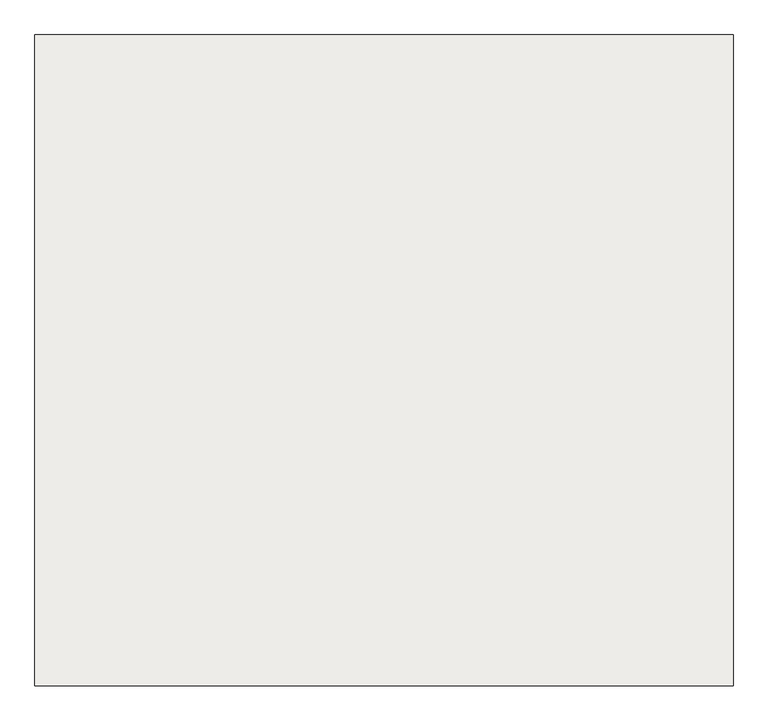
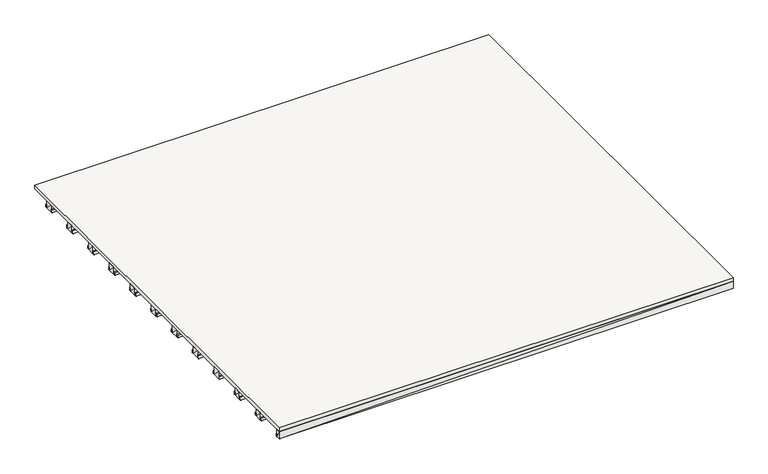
"""IFC4 building model written with IfcOpenShell, lengths in millimetres: slab geometry."""

from ifc_helpers import new_model, si_unit, frame, origin, place, context, project, spatial, polyline, outline, extrude, faceted_brep, source, transform, mapped, element, save


def slab_3418962d(model_context):
    return source(origin(), model_context, "Body", "SolidModel", [
        faceted_brep([(-2377.8, -356.295, -120.0), (2377.795, -356.295, -120.0), (2377.795, -371.295, -120.0), (-2377.8, -371.295, -120.0), (-2377.8, -371.295, -90.0), (2377.795, -371.295, -90.0), (2377.795, -356.295, -90.0), (-2377.8, -356.295, -90.0)], [[[0, 1, 2, 3]], [[4, 5, 6, 7]], [[4, 3, 5]], [[3, 2, 5]], [[5, 2, 6]], [[2, 1, 6]], [[6, 1, 7]], [[1, 0, 7]], [[7, 0, 4]], [[0, 3, 4]]]),
        faceted_brep([(-2377.8, 1163.705, -120.0), (2377.795, 1163.705, -120.0), (2377.795, 1148.705, -120.0), (-2377.8, 1148.705, -120.0), (-2377.8, 1148.705, -90.0), (2377.795, 1148.705, -90.0), (2377.795, 1163.705, -90.0), (-2377.8, 1163.705, -90.0)], [[[0, 1, 2, 3]], [[4, 5, 6, 7]], [[4, 3, 5]], [[3, 2, 5]], [[5, 2, 6]], [[2, 1, 6]], [[6, 1, 7]], [[1, 0, 7]], [[7, 0, 4]], [[0, 3, 4]]]),
        faceted_brep([(-2377.8, -1496.295, -120.0), (2377.795, -1496.295, -120.0), (2377.795, -1511.295, -120.0), (-2377.8, -1511.295, -120.0), (-2377.8, -1511.295, -90.0), (2377.795, -1511.295, -90.0), (2377.795, -1496.295, -90.0), (-2377.8, -1496.295, -90.0)], [[[0, 1, 2, 3]], [[4, 5, 6, 7]], [[4, 3, 5]], [[3, 2, 5]], [[5, 2, 6]], [[2, 1, 6]], [[6, 1, 7]], [[1, 0, 7]], [[7, 0, 4]], [[0, 3, 4]]]),
        faceted_brep([(-2377.8, -736.295, -120.0), (2377.795, -736.295, -120.0), (2377.795, -751.295, -120.0), (-2377.8, -751.295, -120.0), (-2377.8, -751.295, -90.0), (2377.795, -751.295, -90.0), (2377.795, -736.295, -90.0), (-2377.8, -736.295, -90.0)], [[[0, 1, 2, 3]], [[4, 5, 6, 7]], [[4, 3, 5]], [[3, 2, 5]], [[5, 2, 6]], [[2, 1, 6]], [[6, 1, 7]], [[1, 0, 7]], [[7, 0, 4]], [[0, 3, 4]]]),
        faceted_brep([(-2377.8, 498.705, -120.0), (2377.795, 498.705, -120.0), (2377.795, 483.705, -120.0), (-2377.8, 483.705, -120.0), (-2377.8, 483.705, -90.0), (2377.795, 483.705, -90.0), (2377.795, 498.705, -90.0), (-2377.8, 498.705, -90.0)], [[[0, 1, 2, 3]], [[4, 5, 6, 7]], [[4, 3, 5]], [[3, 2, 5]], [[5, 2, 6]], [[2, 1, 6]], [[6, 1, 7]], [[1, 0, 7]], [[7, 0, 4]], [[0, 3, 4]]]),
        faceted_brep([(-2377.8, -1036.295, -120.0), (2377.795, -1036.295, -120.0), (2377.795, -1116.295, -120.0), (-2377.8, -1116.295, -120.0), (-2377.8, -1116.295, -40.0), (2377.795, -1116.295, -40.0), (2377.795, -1036.295, -40.0), (-2377.8, -1036.295, -40.0)], [[[0, 1, 2, 3]], [[4, 5, 6, 7]], [[4, 3, 5]], [[3, 2, 5]], [[5, 2, 6]], [[2, 1, 6]], [[6, 1, 7]], [[1, 0, 7]], [[7, 0, 4]], [[0, 3, 4]]]),
        faceted_brep([(-2377.8, -1401.295, -120.0), (2377.795, -1401.295, -120.0), (2377.795, -1416.295, -120.0), (-2377.8, -1416.295, -120.0), (-2377.8, -1416.295, -90.0), (2377.795, -1416.295, -90.0), (2377.795, -1401.295, -90.0), (-2377.8, -1401.295, -90.0)], [[[0, 1, 2, 3]], [[4, 5, 6, 7]], [[4, 3, 5]], [[3, 2, 5]], [[5, 2, 6]], [[2, 1, 6]], [[6, 1, 7]], [[1, 0, 7]], [[7, 0, 4]], [[0, 3, 4]]]),
        faceted_brep([(-2377.8, 878.705, -120.0), (2377.795, 878.705, -120.0), (2377.795, 863.705, -120.0), (-2377.8, 863.705, -120.0), (-2377.8, 863.705, -90.0), (2377.795, 863.705, -90.0), (2377.795, 878.705, -90.0), (-2377.8, 878.705, -90.0)], [[[0, 1, 2, 3]], [[4, 5, 6, 7]], [[4, 3, 5]], [[3, 2, 5]], [[5, 2, 6]], [[2, 1, 6]], [[6, 1, 7]], [[1, 0, 7]], [[7, 0, 4]], [[0, 3, 4]]]),
        faceted_brep([(-2377.8, -1416.295, -120.0), (2377.795, -1416.295, -120.0), (2377.795, -1496.295, -120.0), (-2377.8, -1496.295, -120.0), (-2377.8, -1496.295, -40.0), (2377.795, -1496.295, -40.0), (2377.795, -1416.295, -40.0), (-2377.8, -1416.295, -40.0)], [[[0, 1, 2, 3]], [[4, 5, 6, 7]], [[4, 3, 5]], [[3, 2, 5]], [[5, 2, 6]], [[2, 1, 6]], [[6, 1, 7]], [[1, 0, 7]], [[7, 0, 4]], [[0, 3, 4]]]),
        faceted_brep([(-2377.8, 1543.705, -120.0), (2377.795, 1543.705, -120.0), (2377.795, 1528.705, -120.0), (-2377.8, 1528.705, -120.0), (-2377.8, 1528.705, -90.0), (2377.795, 1528.705, -90.0), (2377.795, 1543.705, -90.0), (-2377.8, 1543.705, -90.0)], [[[0, 1, 2, 3]], [[4, 5, 6, 7]], [[4, 3, 5]], [[3, 2, 5]], [[5, 2, 6]], [[2, 1, 6]], [[6, 1, 7]], [[1, 0, 7]], [[7, 0, 4]], [[0, 3, 4]]]),
        faceted_brep([(-2377.8, 783.705, -120.0), (2377.795, 783.705, -120.0), (2377.795, 768.705, -120.0), (-2377.8, 768.705, -120.0), (-2377.8, 768.705, -90.0), (2377.795, 768.705, -90.0), (2377.795, 783.705, -90.0), (-2377.8, 783.705, -90.0)], [[[0, 1, 2, 3]], [[4, 5, 6, 7]], [[4, 3, 5]], [[3, 2, 5]], [[5, 2, 6]], [[2, 1, 6]], [[6, 1, 7]], [[1, 0, 7]], [[7, 0, 4]], [[0, 3, 4]]]),
        faceted_brep([(-2377.8, -1781.295, -120.0), (2377.795, -1781.295, -120.0), (2377.795, -1796.295, -120.0), (-2377.8, -1796.295, -120.0), (-2377.8, -1796.295, -90.0), (2377.795, -1796.295, -90.0), (2377.795, -1781.295, -90.0), (-2377.8, -1781.295, -90.0)], [[[0, 1, 2, 3]], [[4, 5, 6, 7]], [[4, 3, 5]], [[3, 2, 5]], [[5, 2, 6]], [[2, 1, 6]], [[6, 1, 7]], [[1, 0, 7]], [[7, 0, 4]], [[0, 3, 4]]]),
        faceted_brep([(-2377.8, 403.705, -120.0), (2377.795, 403.705, -120.0), (2377.795, 388.705, -120.0), (-2377.8, 388.705, -120.0), (-2377.8, 388.705, -90.0), (2377.795, 388.705, -90.0), (2377.795, 403.705, -90.0), (-2377.8, 403.705, -90.0)], [[[0, 1, 2, 3]], [[4, 5, 6, 7]], [[4, 3, 5]], [[3, 2, 5]], [[5, 2, 6]], [[2, 1, 6]], [[6, 1, 7]], [[1, 0, 7]], [[7, 0, 4]], [[0, 3, 4]]]),
        faceted_brep([(-2377.8, 1923.705, -120.0), (2377.795, 1923.705, -120.0), (2377.795, 1908.705, -120.0), (-2377.8, 1908.705, -120.0), (-2377.8, 1908.705, -90.0), (2377.795, 1908.705, -90.0), (2377.795, 1923.705, -90.0), (-2377.8, 1923.705, -90.0)], [[[0, 1, 2, 3]], [[4, 5, 6, 7]], [[4, 3, 5]], [[3, 2, 5]], [[5, 2, 6]], [[2, 1, 6]], [[6, 1, 7]], [[1, 0, 7]], [[7, 0, 4]], [[0, 3, 4]]]),
        faceted_brep([(-2377.8, -2161.295, -120.0), (2377.795, -2161.295, -120.0), (2377.795, -2176.295, -120.0), (-2377.8, -2176.295, -120.0), (-2377.8, -2176.295, -90.0), (2377.795, -2176.295, -90.0), (2377.795, -2161.295, -90.0), (-2377.8, -2161.295, -90.0)], [[[0, 1, 2, 3]], [[4, 5, 6, 7]], [[4, 3, 5]], [[3, 2, 5]], [[5, 2, 6]], [[2, 1, 6]], [[6, 1, 7]], [[1, 0, 7]], [[7, 0, 4]], [[0, 3, 4]]]),
        extrude(outline(polyline([(2377.79, 2216.295), (2377.8, -2216.295), (-2377.8, -2216.295), (-2377.8, 2216.295), (2377.79, 2216.295)])), frame((0.0, 0.0, -40.0), z_axis=(0.0, 0.0, 1.0), x_axis=(1.0, 0.0, 0.0)), (0.0, 0.0, 1.0), 40.0),
        faceted_brep([(-2377.8, -1116.295, -120.0), (2377.795, -1116.295, -120.0), (2377.795, -1131.295, -120.0), (-2377.8, -1131.295, -120.0), (-2377.8, -1131.295, -90.0), (2377.795, -1131.295, -90.0), (2377.795, -1116.295, -90.0), (-2377.8, -1116.295, -90.0)], [[[0, 1, 2, 3]], [[4, 5, 6, 7]], [[4, 3, 5]], [[3, 2, 5]], [[5, 2, 6]], [[2, 1, 6]], [[6, 1, 7]], [[1, 0, 7]], [[7, 0, 4]], [[0, 3, 4]]]),
        faceted_brep([(-2377.8, -2176.295, -120.0), (2377.795, -2176.295, -120.0), (2377.8, -2216.295, -120.0), (-2377.8, -2216.295, -120.0), (-2377.8, -2216.295, -40.0), (2377.8, -2216.295, -40.0), (2377.795, -2176.295, -40.0), (-2377.8, -2176.295, -40.0)], [[[0, 1, 2, 3]], [[4, 5, 6, 7]], [[4, 3, 5]], [[3, 2, 5]], [[5, 2, 6]], [[2, 1, 6]], [[6, 1, 7]], [[1, 0, 7]], [[7, 0, 4]], [[0, 3, 4]]]),
        faceted_brep([(-2377.8, 118.705, -120.0), (2377.795, 118.705, -120.0), (2377.795, 103.705, -120.0), (-2377.8, 103.705, -120.0), (-2377.8, 103.705, -90.0), (2377.795, 103.705, -90.0), (2377.795, 118.705, -90.0), (-2377.8, 118.705, -90.0)], [[[0, 1, 2, 3]], [[4, 5, 6, 7]], [[4, 3, 5]], [[3, 2, 5]], [[5, 2, 6]], [[2, 1, 6]], [[6, 1, 7]], [[1, 0, 7]], [[7, 0, 4]], [[0, 3, 4]]]),
        faceted_brep([(-2377.8, 483.705, -120.0), (2377.795, 483.705, -120.0), (2377.795, 403.705, -120.0), (-2377.8, 403.705, -120.0), (-2377.8, 403.705, -40.0), (2377.795, 403.705, -40.0), (2377.795, 483.705, -40.0), (-2377.8, 483.705, -40.0)], [[[0, 1, 2, 3]], [[4, 5, 6, 7]], [[4, 3, 5]], [[3, 2, 5]], [[5, 2, 6]], [[2, 1, 6]], [[6, 1, 7]], [[1, 0, 7]], [[7, 0, 4]], [[0, 3, 4]]]),
        faceted_brep([(-2377.8, 103.705, -120.0), (2377.795, 103.705, -120.0), (2377.795, 23.705, -120.0), (-2377.8, 23.705, -120.0), (-2377.8, 23.705, -40.0), (2377.795, 23.705, -40.0), (2377.795, 103.705, -40.0), (-2377.8, 103.705, -40.0)], [[[0, 1, 2, 3]], [[4, 5, 6, 7]], [[4, 3, 5]], [[3, 2, 5]], [[5, 2, 6]], [[2, 1, 6]], [[6, 1, 7]], [[1, 0, 7]], [[7, 0, 4]], [[0, 3, 4]]]),
        faceted_brep([(-2377.8, 2018.705, -120.0), (2377.795, 2018.705, -120.0), (2377.795, 2003.705, -120.0), (-2377.8, 2003.705, -120.0), (-2377.8, 2003.705, -90.0), (2377.795, 2003.705, -90.0), (2377.795, 2018.705, -90.0), (-2377.8, 2018.705, -90.0)], [[[0, 1, 2, 3]], [[4, 5, 6, 7]], [[4, 3, 5]], [[3, 2, 5]], [[5, 2, 6]], [[2, 1, 6]], [[6, 1, 7]], [[1, 0, 7]], [[7, 0, 4]], [[0, 3, 4]]]),
        faceted_brep([(-2377.8, 23.705, -120.0), (2377.795, 23.705, -120.0), (2377.795, 8.705, -120.0), (-2377.8, 8.705, -120.0), (-2377.8, 8.705, -90.0), (2377.795, 8.705, -90.0), (2377.795, 23.705, -90.0), (-2377.8, 23.705, -90.0)], [[[0, 1, 2, 3]], [[4, 5, 6, 7]], [[4, 3, 5]], [[3, 2, 5]], [[5, 2, 6]], [[2, 1, 6]], [[6, 1, 7]], [[1, 0, 7]], [[7, 0, 4]], [[0, 3, 4]]]),
        faceted_brep([(-2377.8, 863.705, -120.0), (2377.795, 863.705, -120.0), (2377.795, 783.705, -120.0), (-2377.8, 783.705, -120.0), (-2377.8, 783.705, -40.0), (2377.795, 783.705, -40.0), (2377.795, 863.705, -40.0), (-2377.8, 863.705, -40.0)], [[[0, 1, 2, 3]], [[4, 5, 6, 7]], [[4, 3, 5]], [[3, 2, 5]], [[5, 2, 6]], [[2, 1, 6]], [[6, 1, 7]], [[1, 0, 7]], [[7, 0, 4]], [[0, 3, 4]]]),
        faceted_brep([(-2377.8, -656.295, -120.0), (2377.795, -656.295, -120.0), (2377.795, -736.295, -120.0), (-2377.8, -736.295, -120.0), (-2377.8, -736.295, -40.0), (2377.795, -736.295, -40.0), (2377.795, -656.295, -40.0), (-2377.8, -656.295, -40.0)], [[[0, 1, 2, 3]], [[4, 5, 6, 7]], [[4, 3, 5]], [[3, 2, 5]], [[5, 2, 6]], [[2, 1, 6]], [[6, 1, 7]], [[1, 0, 7]], [[7, 0, 4]], [[0, 3, 4]]]),
        faceted_brep([(-2377.8, 1623.705, -120.0), (2377.795, 1623.705, -120.0), (2377.795, 1543.705, -120.0), (-2377.8, 1543.705, -120.0), (-2377.8, 1543.705, -40.0), (2377.795, 1543.705, -40.0), (2377.795, 1623.705, -40.0), (-2377.8, 1623.705, -40.0)], [[[0, 1, 2, 3]], [[4, 5, 6, 7]], [[4, 3, 5]], [[3, 2, 5]], [[5, 2, 6]], [[2, 1, 6]], [[6, 1, 7]], [[1, 0, 7]], [[7, 0, 4]], [[0, 3, 4]]]),
        faceted_brep([(-2377.8, -641.295, -120.0), (2377.795, -641.295, -120.0), (2377.795, -656.295, -120.0), (-2377.8, -656.295, -120.0), (-2377.8, -656.295, -90.0), (2377.795, -656.295, -90.0), (2377.795, -641.295, -90.0), (-2377.8, -641.295, -90.0)], [[[0, 1, 2, 3]], [[4, 5, 6, 7]], [[4, 3, 5]], [[3, 2, 5]], [[5, 2, 6]], [[2, 1, 6]], [[6, 1, 7]], [[1, 0, 7]], [[7, 0, 4]], [[0, 3, 4]]]),
        faceted_brep([(-2377.8, 1638.705, -120.0), (2377.795, 1638.705, -120.0), (2377.795, 1623.705, -120.0), (-2377.8, 1623.705, -120.0), (-2377.8, 1623.705, -90.0), (2377.795, 1623.705, -90.0), (2377.795, 1638.705, -90.0), (-2377.8, 1638.705, -90.0)], [[[0, 1, 2, 3]], [[4, 5, 6, 7]], [[4, 3, 5]], [[3, 2, 5]], [[5, 2, 6]], [[2, 1, 6]], [[6, 1, 7]], [[1, 0, 7]], [[7, 0, 4]], [[0, 3, 4]]]),
        faceted_brep([(-2377.8, -261.295, -120.0), (2377.795, -261.295, -120.0), (2377.795, -276.295, -120.0), (-2377.8, -276.295, -120.0), (-2377.8, -276.295, -90.0), (2377.795, -276.295, -90.0), (2377.795, -261.295, -90.0), (-2377.8, -261.295, -90.0)], [[[0, 1, 2, 3]], [[4, 5, 6, 7]], [[4, 3, 5]], [[3, 2, 5]], [[5, 2, 6]], [[2, 1, 6]], [[6, 1, 7]], [[1, 0, 7]], [[7, 0, 4]], [[0, 3, 4]]]),
        faceted_brep([(-2377.8, 2003.705, -120.0), (2377.795, 2003.705, -120.0), (2377.795, 1923.705, -120.0), (-2377.8, 1923.705, -120.0), (-2377.8, 1923.705, -40.0), (2377.795, 1923.705, -40.0), (2377.795, 2003.705, -40.0), (-2377.8, 2003.705, -40.0)], [[[0, 1, 2, 3]], [[4, 5, 6, 7]], [[4, 3, 5]], [[3, 2, 5]], [[5, 2, 6]], [[2, 1, 6]], [[6, 1, 7]], [[1, 0, 7]], [[7, 0, 4]], [[0, 3, 4]]]),
        faceted_brep([(-2377.8, -276.295, -120.0), (2377.795, -276.295, -120.0), (2377.795, -356.295, -120.0), (-2377.8, -356.295, -120.0), (-2377.8, -356.295, -40.0), (2377.795, -356.295, -40.0), (2377.795, -276.295, -40.0), (-2377.8, -276.295, -40.0)], [[[0, 1, 2, 3]], [[4, 5, 6, 7]], [[4, 3, 5]], [[3, 2, 5]], [[5, 2, 6]], [[2, 1, 6]], [[6, 1, 7]], [[1, 0, 7]], [[7, 0, 4]], [[0, 3, 4]]]),
        faceted_brep([(-2377.8, 1243.705, -120.0), (2377.795, 1243.705, -120.0), (2377.795, 1163.705, -120.0), (-2377.8, 1163.705, -120.0), (-2377.8, 1163.705, -40.0), (2377.795, 1163.705, -40.0), (2377.795, 1243.705, -40.0), (-2377.8, 1243.705, -40.0)], [[[0, 1, 2, 3]], [[4, 5, 6, 7]], [[4, 3, 5]], [[3, 2, 5]], [[5, 2, 6]], [[2, 1, 6]], [[6, 1, 7]], [[1, 0, 7]], [[7, 0, 4]], [[0, 3, 4]]]),
        faceted_brep([(-2377.8, 1258.705, -120.0), (2377.795, 1258.705, -120.0), (2377.795, 1243.705, -120.0), (-2377.8, 1243.705, -120.0), (-2377.8, 1243.705, -90.0), (2377.795, 1243.705, -90.0), (2377.795, 1258.705, -90.0), (-2377.8, 1258.705, -90.0)], [[[0, 1, 2, 3]], [[4, 5, 6, 7]], [[4, 3, 5]], [[3, 2, 5]], [[5, 2, 6]], [[2, 1, 6]], [[6, 1, 7]], [[1, 0, 7]], [[7, 0, 4]], [[0, 3, 4]]]),
        faceted_brep([(-2377.8, -1021.295, -120.0), (2377.795, -1021.295, -120.0), (2377.795, -1036.295, -120.0), (-2377.8, -1036.295, -120.0), (-2377.8, -1036.295, -90.0), (2377.795, -1036.295, -90.0), (2377.795, -1021.295, -90.0), (-2377.8, -1021.295, -90.0)], [[[0, 1, 2, 3]], [[4, 5, 6, 7]], [[4, 3, 5]], [[3, 2, 5]], [[5, 2, 6]], [[2, 1, 6]], [[6, 1, 7]], [[1, 0, 7]], [[7, 0, 4]], [[0, 3, 4]]]),
        faceted_brep([(-2377.8, -1796.295, -120.0), (2377.795, -1796.295, -120.0), (2377.795, -1876.295, -120.0), (-2377.8, -1876.295, -120.0), (-2377.8, -1876.295, -40.0), (2377.795, -1876.295, -40.0), (2377.795, -1796.295, -40.0), (-2377.8, -1796.295, -40.0)], [[[0, 1, 2, 3]], [[4, 5, 6, 7]], [[4, 3, 5]], [[3, 2, 5]], [[5, 2, 6]], [[2, 1, 6]], [[6, 1, 7]], [[1, 0, 7]], [[7, 0, 4]], [[0, 3, 4]]]),
        faceted_brep([(-2377.8, -1876.295, -120.0), (2377.795, -1876.295, -120.0), (2377.795, -1891.295, -120.0), (-2377.8, -1891.295, -120.0), (-2377.8, -1891.295, -90.0), (2377.795, -1891.295, -90.0), (2377.795, -1876.295, -90.0), (-2377.8, -1876.295, -90.0)], [[[0, 1, 2, 3]], [[4, 5, 6, 7]], [[4, 3, 5]], [[3, 2, 5]], [[5, 2, 6]], [[2, 1, 6]], [[6, 1, 7]], [[1, 0, 7]], [[7, 0, 4]], [[0, 3, 4]]]),
    ])


if __name__ == "__main__":
    model = new_model("IFC4")
    model_context = context("Model", 3, world=origin())
    ifc_project = project(units=[si_unit("LENGTHUNIT", "METRE", prefix="MILLI")], contexts=[model_context])
    site = spatial("IfcSite", under=ifc_project)
    building = spatial("IfcBuilding", under=site)
    placement = place(None, origin())
    slab_shape = slab_3418962d(model_context)
    element("IfcSlab", 1, at=placement, inside=building, context=model_context, shape_type="MappedRepresentation", body=[
        mapped(slab_shape, transform((0.0, 0.0, 0.0), x_axis=(1.0, 0.0, 0.0), y_axis=(0.0, 1.0, 0.0), z_axis=(0.0, 0.0, 1.0))),
    ])
    save(model, "model.ifc")
